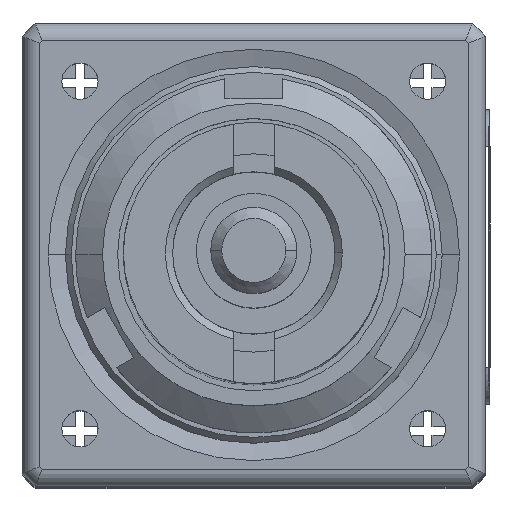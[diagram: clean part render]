
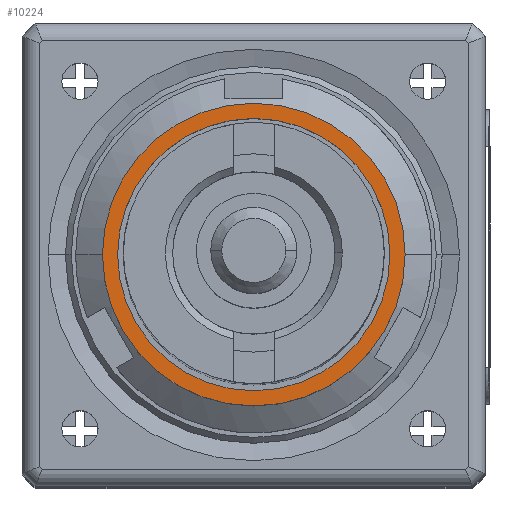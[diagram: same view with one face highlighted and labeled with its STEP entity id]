
A CAD part, top view. The second image highlights one B-rep face of the part: STEP entity #10224.
In plain terms, the highlighted planar face has unit normal (0, 0, 1).
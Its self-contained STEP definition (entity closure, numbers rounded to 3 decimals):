
#334 = PLANE ( 'NONE',  #4387 ) ;
#599 = VERTEX_POINT ( 'NONE', #2728 ) ;
#713 = DIRECTION ( 'NONE',  ( 1., 0., 0. ) ) ;
#1308 = DIRECTION ( 'NONE',  ( 0., 0., 1. ) ) ;
#1608 = FACE_BOUND ( 'NONE', #10037, .T. ) ;
#1655 = EDGE_CURVE ( 'NONE', #599, #10376, #12772, .T. ) ;
#1841 = ORIENTED_EDGE ( 'NONE', *, *, #1655, .F. ) ;
#1935 = CIRCLE ( 'NONE', #8473, 5.223 ) ;
#2711 = FACE_OUTER_BOUND ( 'NONE', #10915, .T. ) ;
#2728 = CARTESIAN_POINT ( 'NONE',  ( 5.547, 10.347, 51.942 ) ) ;
#3074 = CIRCLE ( 'NONE', #13118, 4.7 ) ;
#3103 = DIRECTION ( 'NONE',  ( 0., 0., 1. ) ) ;
#3474 = CARTESIAN_POINT ( 'NONE',  ( 10.247, 10.347, 51.942 ) ) ;
#3894 = AXIS2_PLACEMENT_3D ( 'NONE', #3474, #9854, #11374 ) ;
#3996 = DIRECTION ( 'NONE',  ( 0., 0., 1. ) ) ;
#4387 = AXIS2_PLACEMENT_3D ( 'NONE', #15640, #3996, #14368 ) ;
#5004 = DIRECTION ( 'NONE',  ( 0., 0., 1. ) ) ;
#5058 = DIRECTION ( 'NONE',  ( 1., 0., 0. ) ) ;
#5169 = DIRECTION ( 'NONE',  ( 1., 0., 0. ) ) ;
#5457 = AXIS2_PLACEMENT_3D ( 'NONE', #8461, #3103, #713 ) ;
#6167 = EDGE_CURVE ( 'NONE', #9026, #12649, #9930, .T. ) ;
#6948 = EDGE_CURVE ( 'NONE', #10376, #599, #3074, .T. ) ;
#7639 = CARTESIAN_POINT ( 'NONE',  ( 15.471, 10.347, 51.942 ) ) ;
#8461 = CARTESIAN_POINT ( 'NONE',  ( 10.247, 10.347, 51.942 ) ) ;
#8473 = AXIS2_PLACEMENT_3D ( 'NONE', #11616, #5004, #5169 ) ;
#9005 = ORIENTED_EDGE ( 'NONE', *, *, #6948, .F. ) ;
#9026 = VERTEX_POINT ( 'NONE', #14807 ) ;
#9045 = ORIENTED_EDGE ( 'NONE', *, *, #6167, .T. ) ;
#9854 = DIRECTION ( 'NONE',  ( 0., 0., 1. ) ) ;
#9930 = CIRCLE ( 'NONE', #3894, 5.223 ) ;
#10037 = EDGE_LOOP ( 'NONE', ( #1841, #9005 ) ) ;
#10224 = ADVANCED_FACE ( 'NONE', ( #2711, #1608 ), #334, .T. ) ;
#10236 = CARTESIAN_POINT ( 'NONE',  ( 10.247, 10.347, 51.942 ) ) ;
#10376 = VERTEX_POINT ( 'NONE', #15017 ) ;
#10915 = EDGE_LOOP ( 'NONE', ( #9045, #14846 ) ) ;
#11374 = DIRECTION ( 'NONE',  ( 1., 0., 0. ) ) ;
#11616 = CARTESIAN_POINT ( 'NONE',  ( 10.247, 10.347, 51.942 ) ) ;
#12649 = VERTEX_POINT ( 'NONE', #7639 ) ;
#12772 = CIRCLE ( 'NONE', #5457, 4.7 ) ;
#13118 = AXIS2_PLACEMENT_3D ( 'NONE', #10236, #1308, #5058 ) ;
#14368 = DIRECTION ( 'NONE',  ( 1., 0., 0. ) ) ;
#14807 = CARTESIAN_POINT ( 'NONE',  ( 5.024, 10.347, 51.942 ) ) ;
#14840 = EDGE_CURVE ( 'NONE', #12649, #9026, #1935, .T. ) ;
#14846 = ORIENTED_EDGE ( 'NONE', *, *, #14840, .T. ) ;
#15017 = CARTESIAN_POINT ( 'NONE',  ( 14.947, 10.347, 51.942 ) ) ;
#15640 = CARTESIAN_POINT ( 'NONE',  ( 10.247, 10.347, 51.942 ) ) ;
